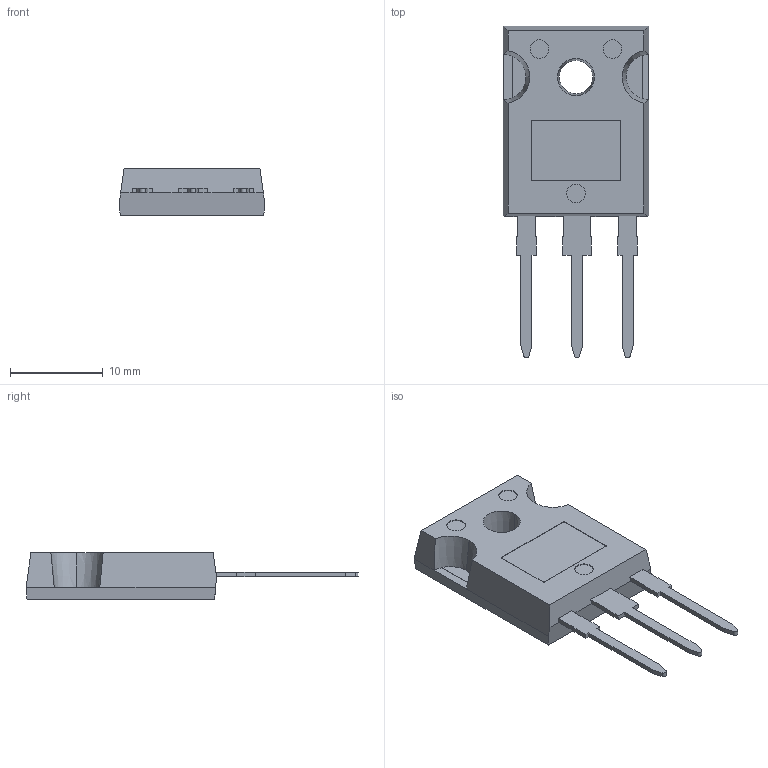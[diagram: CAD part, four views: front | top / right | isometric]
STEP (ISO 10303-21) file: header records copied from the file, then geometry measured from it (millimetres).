
FILE_DESCRIPTION (( 'STEP AP203' ), '1' );
FILE_NAME ('TO247V-3L FULL.STEP', '2019-01-08T08:47:11', ( '' ), ( '' ), 'SwSTEP 2.0', 'SolidWorks 2008', '' );
FILE_SCHEMA (( 'CONFIG_CONTROL_DESIGN' ));
Length unit declared in the file: millimetre
Products named in the file (3): TO247V-3L FULL; TO247V-3L_默认; TO247VPKG-3L_默认
Assembly tree (2 placements, depth 2):
  TO247V-3L FULL
    TO247VPKG-3L_默认
    TO247V-3L_默认
Bounding box: 15.7 x 35.81 x 5.02 mm (x, y, z)
Volume: 1449.1 mm3; surface area: 2007 mm2
Topology: 4 solids, 4 shells, 350 faces, 968 edges, 626 vertices
Faces by surface type: plane 312, cylinder 29, cone 9
Entity records: 11251 total; most frequent: CARTESIAN_POINT 2033, ORIENTED_EDGE 1936, DIRECTION 1732, EDGE_CURVE 968, LINE 858, VECTOR 858, VERTEX_POINT 626, AXIS2_PLACEMENT_3D 437
